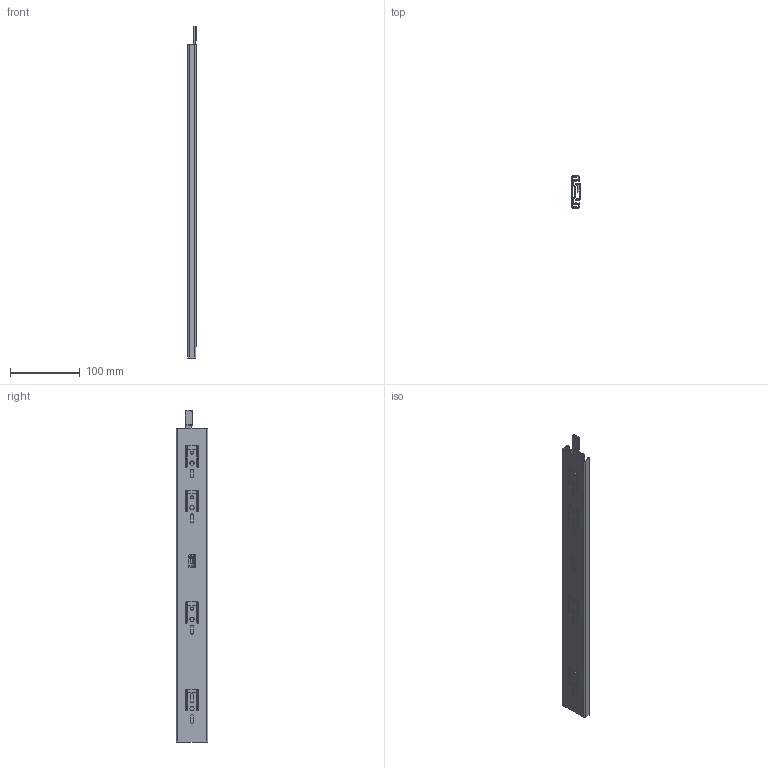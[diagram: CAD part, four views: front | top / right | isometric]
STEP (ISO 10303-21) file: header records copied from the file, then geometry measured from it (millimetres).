
FILE_DESCRIPTION (( 'STEP AP214' ), '1' );
FILE_NAME ('DSCHLD450MML-CLOSED.STEP', '2018-11-28T08:39:18', ( '' ), ( '' ), 'SwSTEP 2.0', 'SolidWorks 2017', '' );
FILE_SCHEMA (( 'AUTOMOTIVE_DESIGN' ));
Length unit declared in the file: millimetre
Products named in the file (5): DSCHLDL-2_450; DSCHLD450MML-CLOSED; DSCHLDL-3_450; DSCHLDL-4; DSCHLDL-1_450
Assembly tree (4 placements, depth 2):
  DSCHLD450MML-CLOSED
    DSCHLDL-3_450
    DSCHLDL-2_450
    DSCHLDL-1_450
    DSCHLDL-4
Bounding box: 12.71 x 45.5 x 476.1 mm (x, y, z)
Volume: 84846.5 mm3; surface area: 139264.1 mm2
Topology: 4 solids, 4 shells, 856 faces, 2330 edges, 1544 vertices
Faces by surface type: plane 488, bspline 237, cylinder 123, torus 4, sphere 4
Entity records: 28962 total; most frequent: CARTESIAN_POINT 8162, ORIENTED_EDGE 4652, DIRECTION 3356, EDGE_CURVE 2326, LINE 1600, VECTOR 1600, VERTEX_POINT 1544, EDGE_LOOP 976
